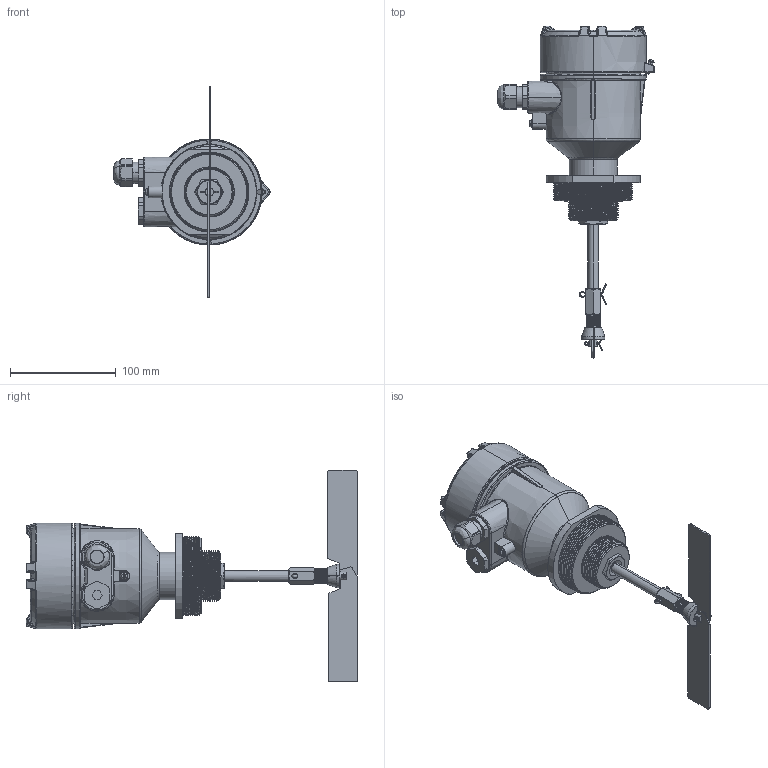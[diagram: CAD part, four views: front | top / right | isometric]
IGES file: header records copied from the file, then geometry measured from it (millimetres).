
Start section: SolidWorks IGES file using analytic representation for surfaces
Global section: file name: C:\Users\Äîì\Desktop\Äàò÷èêè ìîäåëè\IL-LAA-N-Ex\Ðåçüáà\IL-LAA-N-Ex - ñêëàäíàÿ ëîïàñòü - ð.IGS; native system: SolidWorks 2020; preprocessor: SolidWorks 2020; author: Äîì; date: 201229.151123; units: millimetre
Bounding box: 147.54 x 313 x 200 mm (x, y, z)
Surface area: 119960.4 mm2 (no closed solid volume)
Topology: 0 solids, 0 shells, 916 faces, 10114 edges, 10072 vertices
Faces by surface type: bspline 542, revolution 374
